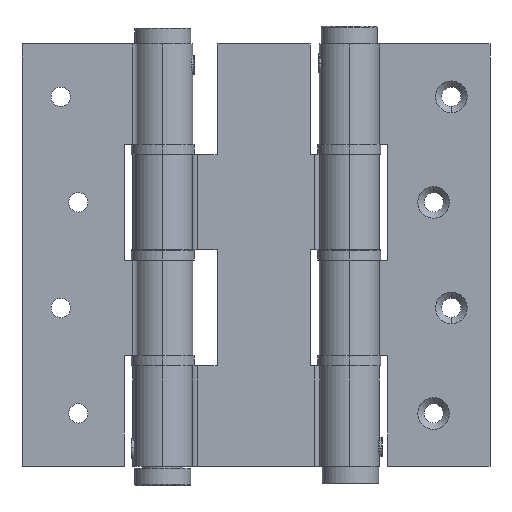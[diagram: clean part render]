
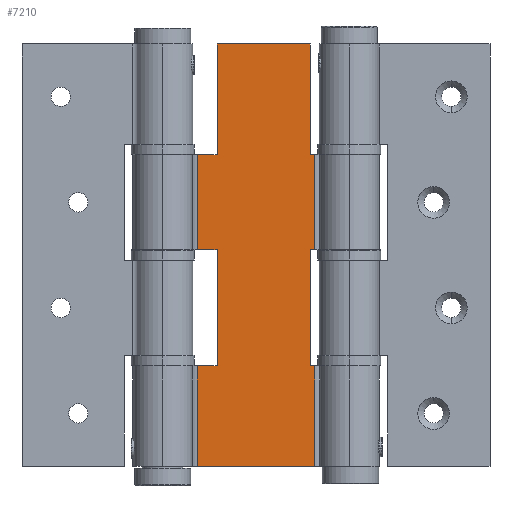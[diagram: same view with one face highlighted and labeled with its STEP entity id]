
A CAD part, front view. The second image highlights one B-rep face of the part: STEP entity #7210.
In plain terms, the highlighted planar face has unit normal (0, -1, 0) as drawn and (-1, 0, 0) by its records, which use the part's own axes.
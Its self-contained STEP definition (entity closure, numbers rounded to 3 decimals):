
#6286=CARTESIAN_POINT('',(-1.202,5.383,30.5));
#6287=VERTEX_POINT('',#6286);
#6294=CARTESIAN_POINT('',(-1.202,4.193,30.5));
#6295=VERTEX_POINT('',#6294);
#6296=CARTESIAN_POINT('',(-1.202,4.193,30.5));
#6297=DIRECTION('',(0.0,1.0,0.0));
#6298=VECTOR('',#6297,1.191);
#6299=LINE('',#6296,#6298);
#6300=EDGE_CURVE('',#6295,#6287,#6299,.T.);
#6358=CARTESIAN_POINT('',(-1.202,5.383,62.0));
#6359=VERTEX_POINT('',#6358);
#6366=CARTESIAN_POINT('',(-1.202,5.383,30.5));
#6367=DIRECTION('',(0.0,0.0,1.0));
#6368=VECTOR('',#6367,31.5);
#6369=LINE('',#6366,#6368);
#6370=EDGE_CURVE('',#6287,#6359,#6369,.T.);
#6391=CARTESIAN_POINT('',(-1.202,31.904,30.5));
#6392=VERTEX_POINT('',#6391);
#6399=CARTESIAN_POINT('',(-1.202,31.904,62.0));
#6400=VERTEX_POINT('',#6399);
#6401=CARTESIAN_POINT('',(-1.202,31.904,62.0));
#6402=DIRECTION('',(0.0,0.0,-1.0));
#6403=VECTOR('',#6402,31.5);
#6404=LINE('',#6401,#6403);
#6405=EDGE_CURVE('',#6400,#6392,#6404,.T.);
#6462=CARTESIAN_POINT('',(-1.202,37.492,30.5));
#6463=VERTEX_POINT('',#6462);
#6471=CARTESIAN_POINT('',(-1.202,31.904,30.5));
#6472=DIRECTION('',(0.0,1.0,0.0));
#6473=VECTOR('',#6472,5.588);
#6474=LINE('',#6471,#6473);
#6475=EDGE_CURVE('',#6392,#6463,#6474,.T.);
#6496=CARTESIAN_POINT('',(-1.202,31.904,3.5));
#6497=VERTEX_POINT('',#6496);
#6504=CARTESIAN_POINT('',(-1.202,37.492,3.5));
#6505=VERTEX_POINT('',#6504);
#6506=CARTESIAN_POINT('',(-1.202,37.492,3.5));
#6507=DIRECTION('',(0.0,-1.0,0.0));
#6508=VECTOR('',#6507,5.588);
#6509=LINE('',#6506,#6508);
#6510=EDGE_CURVE('',#6505,#6497,#6509,.T.);
#6603=CARTESIAN_POINT('',(-1.202,37.492,-29.5));
#6604=VERTEX_POINT('',#6603);
#6612=CARTESIAN_POINT('',(-1.202,31.904,-29.5));
#6613=VERTEX_POINT('',#6612);
#6614=CARTESIAN_POINT('',(-1.202,31.904,-29.5));
#6615=DIRECTION('',(0.0,1.0,0.0));
#6616=VECTOR('',#6615,5.588);
#6617=LINE('',#6614,#6616);
#6618=EDGE_CURVE('',#6613,#6604,#6617,.T.);
#6641=CARTESIAN_POINT('',(-1.202,31.904,3.5));
#6642=DIRECTION('',(0.0,0.0,-1.0));
#6643=VECTOR('',#6642,33.0);
#6644=LINE('',#6641,#6643);
#6645=EDGE_CURVE('',#6497,#6613,#6644,.T.);
#6666=CARTESIAN_POINT('',(-1.202,5.383,-29.5));
#6667=VERTEX_POINT('',#6666);
#6674=CARTESIAN_POINT('',(-1.202,4.193,-29.5));
#6675=VERTEX_POINT('',#6674);
#6676=CARTESIAN_POINT('',(-1.202,4.193,-29.5));
#6677=DIRECTION('',(0.0,1.0,0.0));
#6678=VECTOR('',#6677,1.191);
#6679=LINE('',#6676,#6678);
#6680=EDGE_CURVE('',#6675,#6667,#6679,.T.);
#6738=CARTESIAN_POINT('',(-1.202,5.383,3.5));
#6739=VERTEX_POINT('',#6738);
#6746=CARTESIAN_POINT('',(-1.202,5.383,-29.5));
#6747=DIRECTION('',(0.0,0.0,1.0));
#6748=VECTOR('',#6747,33.0);
#6749=LINE('',#6746,#6748);
#6750=EDGE_CURVE('',#6667,#6739,#6749,.T.);
#6802=CARTESIAN_POINT('',(-1.202,4.193,3.5));
#6803=VERTEX_POINT('',#6802);
#6811=CARTESIAN_POINT('',(-1.202,5.383,3.5));
#6812=DIRECTION('',(0.0,-1.0,0.0));
#6813=VECTOR('',#6812,1.191);
#6814=LINE('',#6811,#6813);
#6815=EDGE_CURVE('',#6739,#6803,#6814,.T.);
#6935=CARTESIAN_POINT('',(-1.202,37.492,-58.0));
#6936=VERTEX_POINT('',#6935);
#6944=CARTESIAN_POINT('',(-1.202,37.492,-58.0));
#6945=DIRECTION('',(0.0,0.0,1.0));
#6946=VECTOR('',#6945,28.5);
#6947=LINE('',#6944,#6946);
#6948=EDGE_CURVE('',#6936,#6604,#6947,.T.);
#7065=CARTESIAN_POINT('',(-1.202,4.193,-58.0));
#7066=VERTEX_POINT('',#7065);
#7067=CARTESIAN_POINT('',(-1.202,4.193,-58.0));
#7068=DIRECTION('',(0.0,0.0,1.0));
#7069=VECTOR('',#7068,28.5);
#7070=LINE('',#7067,#7069);
#7071=EDGE_CURVE('',#7066,#6675,#7070,.T.);
#7161=CARTESIAN_POINT('',(-1.202,4.193,3.5));
#7162=DIRECTION('',(0.0,0.0,1.0));
#7163=VECTOR('',#7162,27.0);
#7164=LINE('',#7161,#7163);
#7165=EDGE_CURVE('',#6803,#6295,#7164,.T.);
#7172=CARTESIAN_POINT('',(-1.202,4.193,-58.0));
#7173=DIRECTION('',(-1.0,0.0,0.0));
#7174=DIRECTION('',(0.0,0.0,1.0));
#7175=AXIS2_PLACEMENT_3D('',#7172,#7173,#7174);
#7176=PLANE('',#7175);
#7177=ORIENTED_EDGE('',*,*,#6370,.T.);
#7178=CARTESIAN_POINT('',(-1.202,5.383,62.0));
#7179=DIRECTION('',(0.0,1.0,0.0));
#7180=VECTOR('',#7179,26.521);
#7181=LINE('',#7178,#7180);
#7182=EDGE_CURVE('',#6359,#6400,#7181,.T.);
#7183=ORIENTED_EDGE('',*,*,#7182,.T.);
#7184=ORIENTED_EDGE('',*,*,#6405,.T.);
#7185=ORIENTED_EDGE('',*,*,#6475,.T.);
#7186=CARTESIAN_POINT('',(-1.202,37.492,3.5));
#7187=DIRECTION('',(0.0,0.0,1.0));
#7188=VECTOR('',#7187,27.0);
#7189=LINE('',#7186,#7188);
#7190=EDGE_CURVE('',#6505,#6463,#7189,.T.);
#7191=ORIENTED_EDGE('',*,*,#7190,.F.);
#7192=ORIENTED_EDGE('',*,*,#6510,.T.);
#7193=ORIENTED_EDGE('',*,*,#6645,.T.);
#7194=ORIENTED_EDGE('',*,*,#6618,.T.);
#7195=ORIENTED_EDGE('',*,*,#6948,.F.);
#7196=CARTESIAN_POINT('',(-1.202,4.193,-58.0));
#7197=DIRECTION('',(0.0,1.0,0.0));
#7198=VECTOR('',#7197,33.299);
#7199=LINE('',#7196,#7198);
#7200=EDGE_CURVE('',#7066,#6936,#7199,.T.);
#7201=ORIENTED_EDGE('',*,*,#7200,.F.);
#7202=ORIENTED_EDGE('',*,*,#7071,.T.);
#7203=ORIENTED_EDGE('',*,*,#6680,.T.);
#7204=ORIENTED_EDGE('',*,*,#6750,.T.);
#7205=ORIENTED_EDGE('',*,*,#6815,.T.);
#7206=ORIENTED_EDGE('',*,*,#7165,.T.);
#7207=ORIENTED_EDGE('',*,*,#6300,.T.);
#7208=EDGE_LOOP('',(#7177,#7183,#7184,#7185,#7191,#7192,#7193,#7194,#7195,#7201,#7202,#7203,#7204,#7205,#7206,#7207));
#7209=FACE_OUTER_BOUND('',#7208,.T.);
#7210=ADVANCED_FACE('',(#7209),#7176,.T.);
